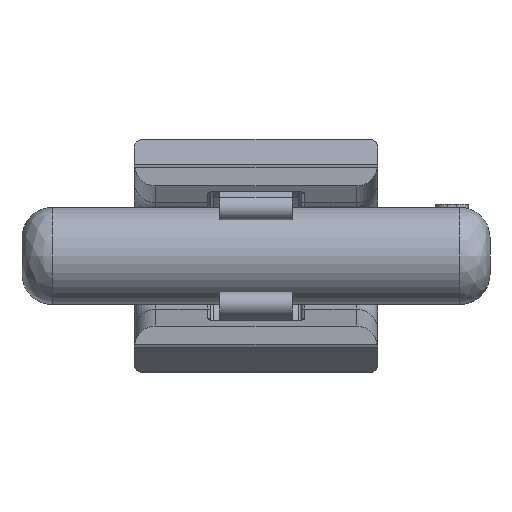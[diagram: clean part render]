
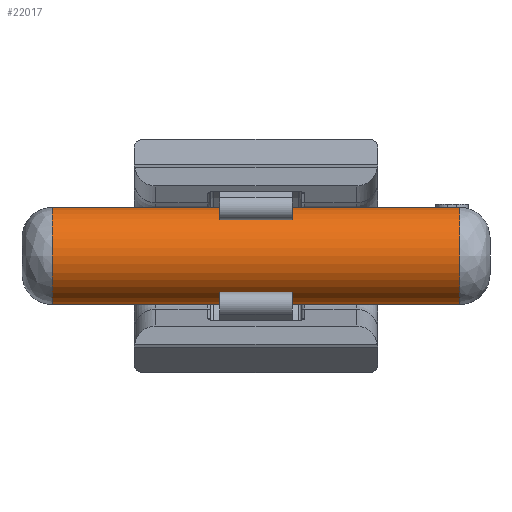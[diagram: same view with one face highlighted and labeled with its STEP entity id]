
A CAD part, front view. The second image highlights one B-rep face of the part: STEP entity #22017.
In plain terms, the highlighted cylindrical face has radius 8 mm (diameter 16 mm), a partial arc.
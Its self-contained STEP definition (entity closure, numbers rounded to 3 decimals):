
#14171=CARTESIAN_POINT('',(33.5,-42.25,0.));
#14172=DIRECTION('',(-1.,0.,0.));
#14173=DIRECTION('',(0.,0.,-1.));
#14174=AXIS2_PLACEMENT_3D('',#14171,#14172,#14173);
#14860=DIRECTION('',(1.,0.,0.));
#14861=VECTOR('',#14860,67.);
#14862=CARTESIAN_POINT('',(-33.5,-42.25,-8.));
#14863=LINE('',#14862,#14861);
#14864=CARTESIAN_POINT('',(-33.5,-42.25,0.));
#14865=DIRECTION('',(-1.,0.,0.));
#14866=DIRECTION('',(0.,0.,-1.));
#14867=AXIS2_PLACEMENT_3D('',#14864,#14865,#14866);
#14869=DIRECTION('',(1.,0.,0.));
#14870=VECTOR('',#14869,67.);
#14871=CARTESIAN_POINT('',(-33.5,-42.25,8.));
#14872=LINE('',#14871,#14870);
#15975=CARTESIAN_POINT('',(-33.5,-42.25,8.));
#15977=VERTEX_POINT('',#15975);
#16052=CARTESIAN_POINT('',(33.5,-42.25,8.));
#16053=VERTEX_POINT('',#16052);
#16092=CARTESIAN_POINT('',(-33.5,-42.25,-8.));
#16094=VERTEX_POINT('',#16092);
#16148=CARTESIAN_POINT('',(33.5,-42.25,-8.));
#16150=VERTEX_POINT('',#16148);
#22006=CARTESIAN_POINT('',(88.689,-42.25,0.));
#22007=DIRECTION('',(1.,0.,0.));
#22008=DIRECTION('',(0.,0.,1.));
#22009=AXIS2_PLACEMENT_3D('',#22006,#22007,#22008);
#22010=CYLINDRICAL_SURFACE('',#22009,8.);
#22011=ORIENTED_EDGE('',*,*,#20973,.F.);
#22012=ORIENTED_EDGE('',*,*,#19935,.F.);
#22013=ORIENTED_EDGE('',*,*,#21159,.T.);
#22014=ORIENTED_EDGE('',*,*,#16269,.T.);
#22015=EDGE_LOOP('',(#22011,#22012,#22013,#22014));
#22016=FACE_OUTER_BOUND('',#22015,.F.);
#22017=ADVANCED_FACE('',(#22016),#22010,.T.);
#14175=CIRCLE('',#14174,8.);
#14868=CIRCLE('',#14867,8.);
#16269=EDGE_CURVE('',#15977,#16053,#14872,.T.);
#19935=EDGE_CURVE('',#16094,#16150,#14863,.T.);
#20973=EDGE_CURVE('',#16150,#16053,#14175,.T.);
#21159=EDGE_CURVE('',#16094,#15977,#14868,.T.);
